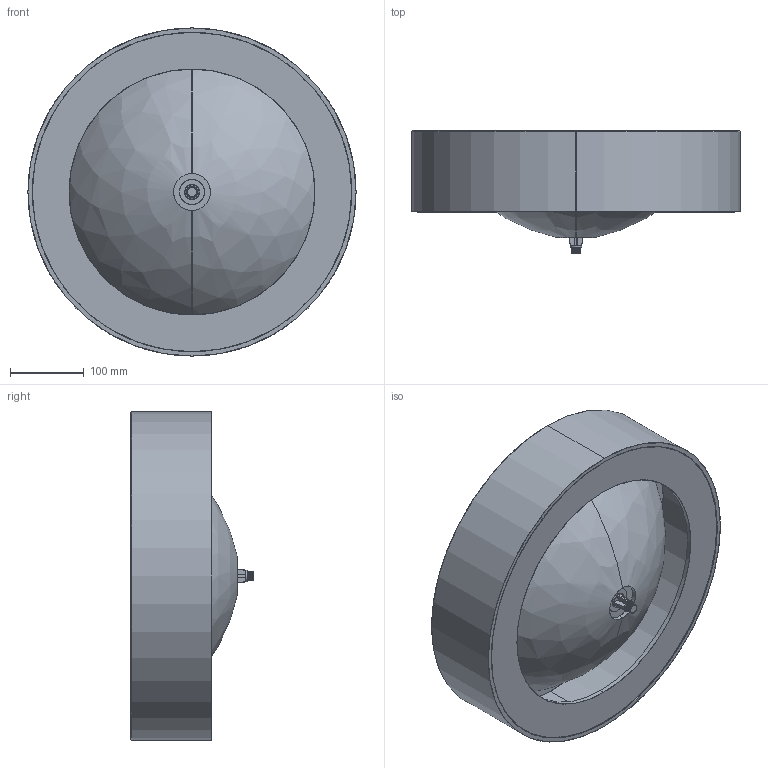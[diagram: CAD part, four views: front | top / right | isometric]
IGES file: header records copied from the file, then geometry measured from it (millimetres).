
Start section: SolidWorks IGES file using analytic representation for surfaces
Global section: file name: \\Ut-server\UT_DOCUMENTI\030_PRODUZIONE MAKRO\SW\ESPORTAZIONE_FILE_3D\IGES\CUP11_CORIAN.IGS; native system: SolidWorks 2012; preprocessor: SolidWorks 2012; author: Administrator; date: 060411.015259; units: millimetre
Bounding box: 446 x 166.2 x 446 mm (x, y, z)
Surface area: 786945.9 mm2 (no closed solid volume)
Topology: 0 solids, 0 shells, 69 faces, 1443 edges, 1443 vertices
Faces by surface type: revolution 41, bspline 28
